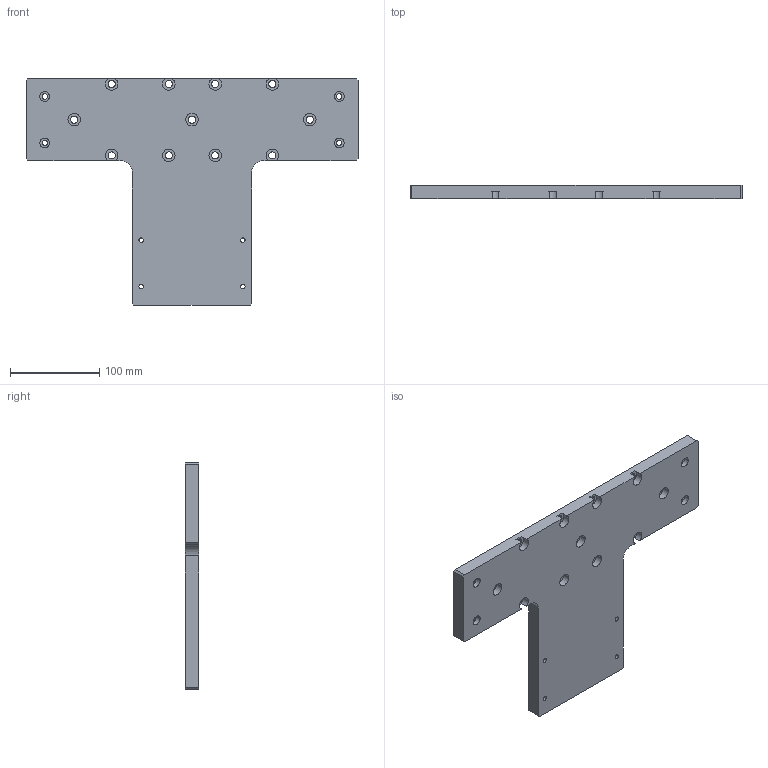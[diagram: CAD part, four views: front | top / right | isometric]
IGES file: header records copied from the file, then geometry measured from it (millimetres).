
Start section:  PTC IGES file: n100-n100m-ft.igs
Global section: file name: n100-n100m-ft.igs; native system: Pro/ENGINEER by Parametric Technology Corporation; preprocessor: 2008230; author: Owner; organization: Unknown; date: 20121212.130557; units: millimetre
Bounding box: 372 x 15 x 254 mm (x, y, z)
Surface area: 136544.9 mm2 (no closed solid volume)
Topology: 0 solids, 0 shells, 95 faces, 504 edges, 504 vertices
Faces by surface type: revolution 64, bspline 31
